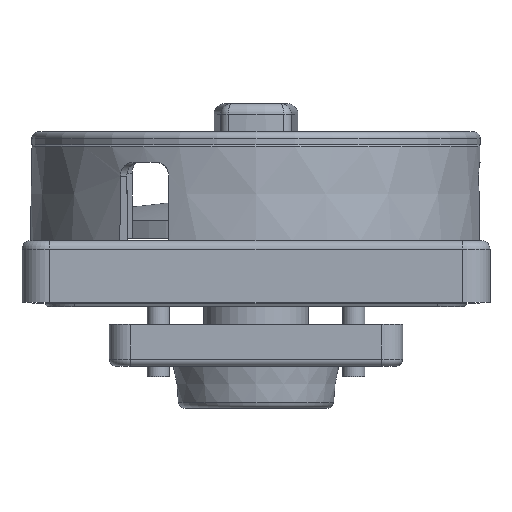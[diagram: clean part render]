
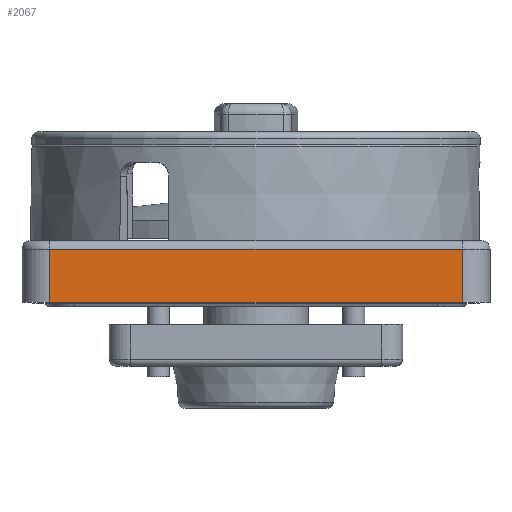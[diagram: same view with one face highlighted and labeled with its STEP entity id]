
A CAD part, front view. The second image highlights one B-rep face of the part: STEP entity #2067.
In plain terms, the highlighted planar face has unit normal (0, -1, 0).
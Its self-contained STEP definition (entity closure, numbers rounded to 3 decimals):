
#2067=ADVANCED_FACE('',(#2359),#2183,.T.);
#2183=PLANE('',#8229);
#2359=FACE_OUTER_BOUND('',#2614,.T.);
#2614=EDGE_LOOP('',(#4295,#4296,#4297,#4298));
#4295=ORIENTED_EDGE('',*,*,#6397,.T.);
#4296=ORIENTED_EDGE('',*,*,#6069,.T.);
#4297=ORIENTED_EDGE('',*,*,#6398,.F.);
#4298=ORIENTED_EDGE('',*,*,#6399,.F.);
#5004=VERTEX_POINT('',#12324);
#5005=VERTEX_POINT('',#12326);
#5319=VERTEX_POINT('',#13000);
#5320=VERTEX_POINT('',#13002);
#6069=EDGE_CURVE('',#5005,#5004,#6892,.T.);
#6397=EDGE_CURVE('',#5319,#5005,#7052,.T.);
#6398=EDGE_CURVE('',#5320,#5004,#7053,.T.);
#6399=EDGE_CURVE('',#5319,#5320,#7054,.T.);
#6892=LINE('',#12325,#7427);
#7052=LINE('',#12999,#7587);
#7053=LINE('',#13001,#7588);
#7054=LINE('',#13003,#7589);
#7427=VECTOR('',#9398,1.);
#7587=VECTOR('',#9894,1.);
#7588=VECTOR('',#9895,1.);
#7589=VECTOR('',#9896,1.);
#8229=AXIS2_PLACEMENT_3D('',#13004,#9897,#9898);
#9398=DIRECTION('',(1.,0.,0.));
#9894=DIRECTION('',(0.,0.,-1.));
#9895=DIRECTION('',(0.,0.,-1.));
#9896=DIRECTION('',(1.,0.,0.));
#9897=DIRECTION('',(0.,-1.,0.));
#9898=DIRECTION('',(-1.,0.,0.));
#12324=CARTESIAN_POINT('',(29.5,-33.5,-0.3));
#12325=CARTESIAN_POINT('',(-29.5,-33.5,-0.3));
#12326=CARTESIAN_POINT('',(-29.5,-33.5,-0.3));
#12999=CARTESIAN_POINT('',(-29.5,-33.5,-0.3));
#13000=CARTESIAN_POINT('',(-29.5,-33.5,7.3));
#13001=CARTESIAN_POINT('',(29.5,-33.5,-0.3));
#13002=CARTESIAN_POINT('',(29.5,-33.5,7.3));
#13003=CARTESIAN_POINT('',(-29.5,-33.5,7.3));
#13004=CARTESIAN_POINT('',(-33.5,-33.5,-0.3));
